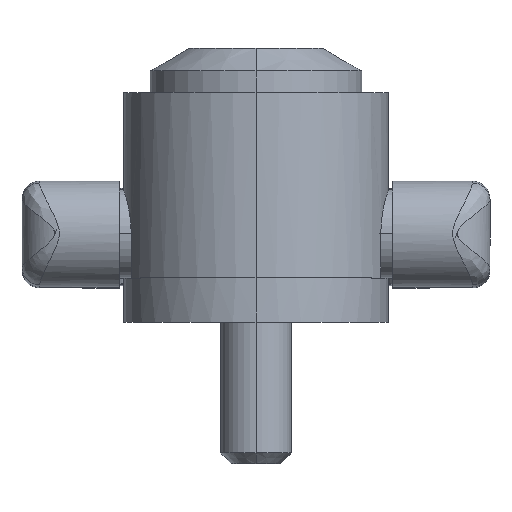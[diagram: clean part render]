
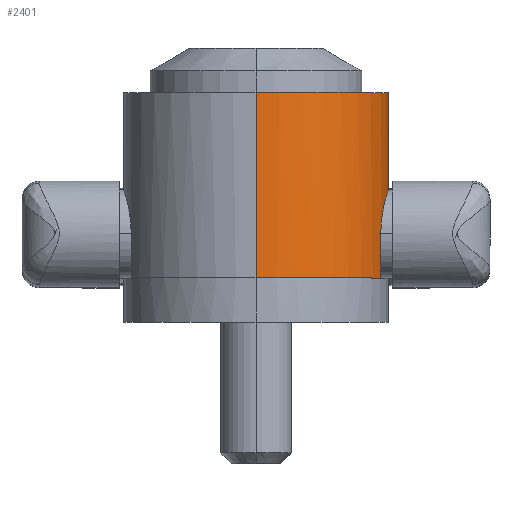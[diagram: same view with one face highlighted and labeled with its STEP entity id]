
A CAD part, top view. The second image highlights one B-rep face of the part: STEP entity #2401.
In plain terms, the highlighted cylindrical face has radius 15 mm (diameter 30 mm), a partial arc.
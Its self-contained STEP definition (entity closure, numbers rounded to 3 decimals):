
#2291 = CARTESIAN_POINT ( 'NONE',  ( 14.142, 10., -5. ) ) ;
#2296 = CARTESIAN_POINT ( 'NONE',  ( 14.142, 10.333, -5. ) ) ;
#2390 = VERTEX_POINT ( 'NONE', #3966 ) ;
#2391 = ORIENTED_EDGE ( 'NONE', *, *, #2424, .F. ) ;
#2401 = ADVANCED_FACE ( 'NONE', ( #3950 ), #3949, .T. ) ;
#2402 = EDGE_LOOP ( 'NONE', ( #2403, #2419, #2422, #2450, #2453, #2456, #2459, #2391 ) ) ;
#2403 = ORIENTED_EDGE ( 'NONE', *, *, #2404, .F. ) ;
#2404 = EDGE_CURVE ( 'NONE', #2405, #2406, #4033, .T. ) ;
#2405 = VERTEX_POINT ( 'NONE', #4028 ) ;
#2406 = VERTEX_POINT ( 'NONE', #4027 ) ;
#2419 = ORIENTED_EDGE ( 'NONE', *, *, #2420, .T. ) ;
#2420 = EDGE_CURVE ( 'NONE', #2405, #2421, #4156, .T. ) ;
#2421 = VERTEX_POINT ( 'NONE', #4152 ) ;
#2422 = ORIENTED_EDGE ( 'NONE', *, *, #2423, .F. ) ;
#2423 = EDGE_CURVE ( 'NONE', #2449, #2421, #4151, .T. ) ;
#2424 = EDGE_CURVE ( 'NONE', #2406, #2390, #4146, .T. ) ;
#2449 = VERTEX_POINT ( 'NONE', #4076 ) ;
#2450 = ORIENTED_EDGE ( 'NONE', *, *, #2451, .T. ) ;
#2451 = EDGE_CURVE ( 'NONE', #2449, #2452, #4070, .T. ) ;
#2452 = VERTEX_POINT ( 'NONE', #4137 ) ;
#2453 = ORIENTED_EDGE ( 'NONE', *, *, #2454, .T. ) ;
#2454 = EDGE_CURVE ( 'NONE', #2452, #2455, #4136, .T. ) ;
#2455 = VERTEX_POINT ( 'NONE', #4400 ) ;
#2456 = ORIENTED_EDGE ( 'NONE', *, *, #2457, .T. ) ;
#2457 = EDGE_CURVE ( 'NONE', #2455, #2458, #4399, .T. ) ;
#2458 = VERTEX_POINT ( 'NONE', #4292 ) ;
#2459 = ORIENTED_EDGE ( 'NONE', *, *, #2460, .F. ) ;
#2460 = EDGE_CURVE ( 'NONE', #2390, #2458, #4291, .T. ) ;
#3948 = AXIS2_PLACEMENT_3D ( 'NONE', #4036, #4035, #4034 ) ;
#3949 = CYLINDRICAL_SURFACE ( 'NONE', #3948, 15. ) ;
#3950 = FACE_OUTER_BOUND ( 'NONE', #2402, .T. ) ;
#3966 = CARTESIAN_POINT ( 'NONE',  ( 0., 5., -15. ) ) ;
#4027 = CARTESIAN_POINT ( 'NONE',  ( 0., 26., -15. ) ) ;
#4028 = CARTESIAN_POINT ( 'NONE',  ( 0., 26., 15. ) ) ;
#4029 = DIRECTION ( 'NONE',  ( 0., 0., 1. ) ) ;
#4030 = DIRECTION ( 'NONE',  ( 0., 1., 0. ) ) ;
#4031 = CARTESIAN_POINT ( 'NONE',  ( 0., 26., 0. ) ) ;
#4032 = AXIS2_PLACEMENT_3D ( 'NONE', #4031, #4030, #4029 ) ;
#4033 = CIRCLE ( 'NONE', #4032, 15. ) ;
#4034 = DIRECTION ( 'NONE',  ( 0., 0., -1. ) ) ;
#4035 = DIRECTION ( 'NONE',  ( 0., -1., 0. ) ) ;
#4036 = CARTESIAN_POINT ( 'NONE',  ( 0., 31., 0. ) ) ;
#4067 = DIRECTION ( 'NONE',  ( 0., 1., 0. ) ) ;
#4068 = VECTOR ( 'NONE', #4067, 1000. ) ;
#4069 = CARTESIAN_POINT ( 'NONE',  ( 14.142, 31., 5. ) ) ;
#4070 = LINE ( 'NONE', #4069, #4068 ) ;
#4076 = CARTESIAN_POINT ( 'NONE',  ( 14.142, 5., 5. ) ) ;
#4102 = CARTESIAN_POINT ( 'NONE',  ( 14.154, 10.665, -4.967 ) ) ;
#4103 = CARTESIAN_POINT ( 'NONE',  ( 14.199, 11.312, -4.836 ) ) ;
#4104 = CARTESIAN_POINT ( 'NONE',  ( 14.232, 11.624, -4.74 ) ) ;
#4105 = CARTESIAN_POINT ( 'NONE',  ( 14.313, 12.225, -4.489 ) ) ;
#4106 = CARTESIAN_POINT ( 'NONE',  ( 14.362, 12.517, -4.332 ) ) ;
#4107 = CARTESIAN_POINT ( 'NONE',  ( 14.466, 13.057, -3.97 ) ) ;
#4108 = CARTESIAN_POINT ( 'NONE',  ( 14.522, 13.306, -3.765 ) ) ;
#4109 = CARTESIAN_POINT ( 'NONE',  ( 14.633, 13.766, -3.305 ) ) ;
#4110 = CARTESIAN_POINT ( 'NONE',  ( 14.689, 13.975, -3.05 ) ) ;
#4111 = CARTESIAN_POINT ( 'NONE',  ( 14.791, 14.336, -2.511 ) ) ;
#4112 = CARTESIAN_POINT ( 'NONE',  ( 14.838, 14.491, -2.222 ) ) ;
#4113 = CARTESIAN_POINT ( 'NONE',  ( 14.916, 14.744, -1.614 ) ) ;
#4114 = CARTESIAN_POINT ( 'NONE',  ( 14.947, 14.839, -1.301 ) ) ;
#4115 = CARTESIAN_POINT ( 'NONE',  ( 14.989, 14.967, -0.657 ) ) ;
#4116 = CARTESIAN_POINT ( 'NONE',  ( 15., 15., -0.323 ) ) ;
#4117 = CARTESIAN_POINT ( 'NONE',  ( 15., 15., 0.334 ) ) ;
#4118 = CARTESIAN_POINT ( 'NONE',  ( 14.989, 14.967, 0.66 ) ) ;
#4119 = CARTESIAN_POINT ( 'NONE',  ( 14.957, 14.87, 1.145 ) ) ;
#4120 = CARTESIAN_POINT ( 'NONE',  ( 14.944, 14.829, 1.306 ) ) ;
#4121 = CARTESIAN_POINT ( 'NONE',  ( 14.913, 14.733, 1.621 ) ) ;
#4122 = CARTESIAN_POINT ( 'NONE',  ( 14.895, 14.677, 1.774 ) ) ;
#4123 = CARTESIAN_POINT ( 'NONE',  ( 14.837, 14.49, 2.225 ) ) ;
#4124 = CARTESIAN_POINT ( 'NONE',  ( 14.791, 14.336, 2.512 ) ) ;
#4125 = CARTESIAN_POINT ( 'NONE',  ( 14.688, 13.97, 3.057 ) ) ;
#4126 = CARTESIAN_POINT ( 'NONE',  ( 14.633, 13.764, 3.307 ) ) ;
#4127 = CARTESIAN_POINT ( 'NONE',  ( 14.522, 13.306, 3.765 ) ) ;
#4128 = CARTESIAN_POINT ( 'NONE',  ( 14.465, 13.052, 3.974 ) ) ;
#4129 = CARTESIAN_POINT ( 'NONE',  ( 14.361, 12.51, 4.336 ) ) ;
#4130 = CARTESIAN_POINT ( 'NONE',  ( 14.313, 12.224, 4.49 ) ) ;
#4131 = CARTESIAN_POINT ( 'NONE',  ( 14.232, 11.62, 4.741 ) ) ;
#4132 = CARTESIAN_POINT ( 'NONE',  ( 14.198, 11.302, 4.839 ) ) ;
#4133 = CARTESIAN_POINT ( 'NONE',  ( 14.154, 10.66, 4.967 ) ) ;
#4134 = CARTESIAN_POINT ( 'NONE',  ( 14.142, 10.333, 5. ) ) ;
#4135 = CARTESIAN_POINT ( 'NONE',  ( 14.142, 10., 5. ) ) ;
#4136 = B_SPLINE_CURVE_WITH_KNOTS ( 'NONE', 3,
 ( #4135, #4134, #4133, #4132, #4131, #4130, #4129, #4128, #4127, #4126, #4125, #4124, #4123, #4122, #4121, #4120, #4119, #4118, #4117, #4116, #4115, #4114, #4113, #4112, #4111, #4110, #4109, #4108, #4107, #4106, #4105, #4104, #4103, #4102, #2296, #2291 ),
 .UNSPECIFIED., .F., .F.,
 ( 4, 2, 2, 2, 2, 2, 2, 2, 2, 2, 2, 2, 2, 2, 2, 2, 2, 4 ),
 ( 0., 0.001, 0.002, 0.003, 0.004, 0.005, 0.006, 0.006, 0.007, 0.008, 0.009, 0.01, 0.011, 0.012, 0.013, 0.014, 0.015, 0.016 ),
 .UNSPECIFIED. ) ;
#4137 = CARTESIAN_POINT ( 'NONE',  ( 14.142, 10., 5. ) ) ;
#4143 = DIRECTION ( 'NONE',  ( 0., -1., 0. ) ) ;
#4144 = VECTOR ( 'NONE', #4143, 1000. ) ;
#4145 = CARTESIAN_POINT ( 'NONE',  ( 0., 31., -15. ) ) ;
#4146 = LINE ( 'NONE', #4145, #4144 ) ;
#4147 = DIRECTION ( 'NONE',  ( 0., 0., -1. ) ) ;
#4148 = DIRECTION ( 'NONE',  ( 0., -1., 0. ) ) ;
#4149 = CARTESIAN_POINT ( 'NONE',  ( 0., 5., 0. ) ) ;
#4150 = AXIS2_PLACEMENT_3D ( 'NONE', #4149, #4148, #4147 ) ;
#4151 = CIRCLE ( 'NONE', #4150, 15. ) ;
#4152 = CARTESIAN_POINT ( 'NONE',  ( 0., 5., 15. ) ) ;
#4153 = DIRECTION ( 'NONE',  ( 0., -1., 0. ) ) ;
#4154 = VECTOR ( 'NONE', #4153, 1000. ) ;
#4155 = CARTESIAN_POINT ( 'NONE',  ( 0., 31., 15. ) ) ;
#4156 = LINE ( 'NONE', #4155, #4154 ) ;
#4287 = DIRECTION ( 'NONE',  ( 0., 0., -1. ) ) ;
#4288 = DIRECTION ( 'NONE',  ( 0., -1., 0. ) ) ;
#4289 = CARTESIAN_POINT ( 'NONE',  ( 0., 5., 0. ) ) ;
#4290 = AXIS2_PLACEMENT_3D ( 'NONE', #4289, #4288, #4287 ) ;
#4291 = CIRCLE ( 'NONE', #4290, 15. ) ;
#4292 = CARTESIAN_POINT ( 'NONE',  ( 14.142, 5., -5. ) ) ;
#4396 = DIRECTION ( 'NONE',  ( 0., -1., 0. ) ) ;
#4397 = VECTOR ( 'NONE', #4396, 1000. ) ;
#4398 = CARTESIAN_POINT ( 'NONE',  ( 14.142, 31., -5. ) ) ;
#4399 = LINE ( 'NONE', #4398, #4397 ) ;
#4400 = CARTESIAN_POINT ( 'NONE',  ( 14.142, 10., -5. ) ) ;
